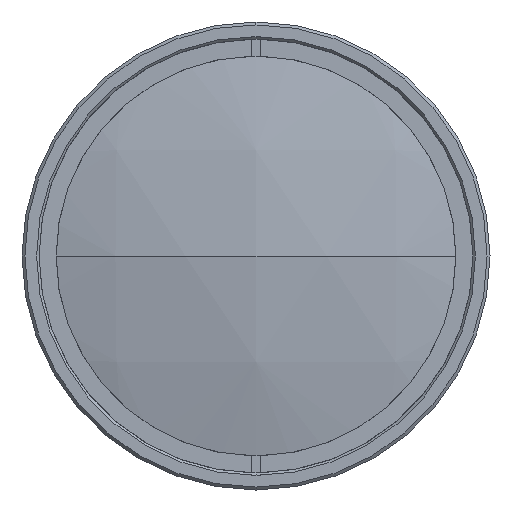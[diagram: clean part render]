
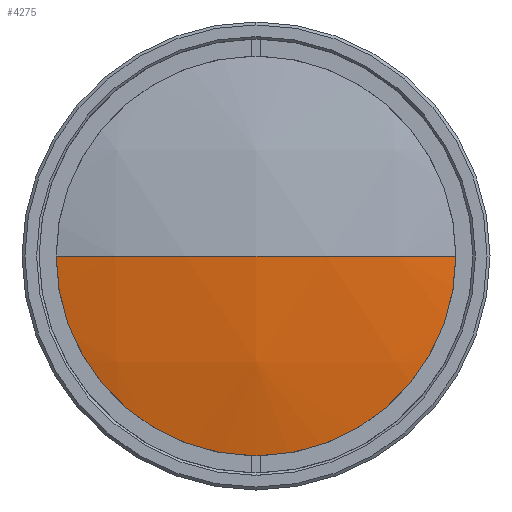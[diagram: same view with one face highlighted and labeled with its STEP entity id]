
A CAD part, left-side view. The second image highlights one B-rep face of the part: STEP entity #4275.
In plain terms, the highlighted spherical face has radius 86.773 mm.
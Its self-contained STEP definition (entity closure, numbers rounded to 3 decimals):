
#31 = VERTEX_POINT ( 'NONE', #9858 ) ;
#71 = DIRECTION ( 'NONE',  ( 0., 0., -1. ) ) ;
#143 = CARTESIAN_POINT ( 'NONE',  ( 86.773, 0., 0. ) ) ;
#562 = DIRECTION ( 'NONE',  ( 0., 0., 1. ) ) ;
#592 = VERTEX_POINT ( 'NONE', #8512 ) ;
#593 = CIRCLE ( 'NONE', #4793, 86.773 ) ;
#715 = DIRECTION ( 'NONE',  ( 0., 1., 0. ) ) ;
#973 = VERTEX_POINT ( 'NONE', #3142 ) ;
#998 = EDGE_CURVE ( 'NONE', #6679, #31, #5518, .T. ) ;
#1755 = DIRECTION ( 'NONE',  ( 0., 0., 1. ) ) ;
#1949 = EDGE_CURVE ( 'NONE', #592, #6679, #4336, .T. ) ;
#2049 = SPHERICAL_SURFACE ( 'NONE', #6093, 86.773 ) ;
#2465 = CARTESIAN_POINT ( 'NONE',  ( 2.706, 0., -21.5 ) ) ;
#3142 = CARTESIAN_POINT ( 'NONE',  ( 0., 0., 0. ) ) ;
#3576 = DIRECTION ( 'NONE',  ( -1., 0., 0. ) ) ;
#3598 = CARTESIAN_POINT ( 'NONE',  ( 2.706, 0., 0. ) ) ;
#4242 = ORIENTED_EDGE ( 'NONE', *, *, #1949, .T. ) ;
#4275 = ADVANCED_FACE ( 'NONE', ( #6284 ), #2049, .T. ) ;
#4336 = CIRCLE ( 'NONE', #7985, 21.5 ) ;
#4482 = ORIENTED_EDGE ( 'NONE', *, *, #5909, .T. ) ;
#4589 = CARTESIAN_POINT ( 'NONE',  ( 2.706, 0., 0. ) ) ;
#4793 = AXIS2_PLACEMENT_3D ( 'NONE', #6833, #1755, #7669 ) ;
#5117 = CARTESIAN_POINT ( 'NONE',  ( 86.773, 0., 0. ) ) ;
#5518 = CIRCLE ( 'NONE', #9773, 21.5 ) ;
#5851 = EDGE_LOOP ( 'NONE', ( #9264, #4482, #9035, #4242 ) ) ;
#5909 = EDGE_CURVE ( 'NONE', #31, #973, #10245, .T. ) ;
#6093 = AXIS2_PLACEMENT_3D ( 'NONE', #5117, #9167, #10580 ) ;
#6236 = DIRECTION ( 'NONE',  ( -1., 0., 0. ) ) ;
#6284 = FACE_OUTER_BOUND ( 'NONE', #5851, .T. ) ;
#6679 = VERTEX_POINT ( 'NONE', #2465 ) ;
#6833 = CARTESIAN_POINT ( 'NONE',  ( 86.773, 0., 0. ) ) ;
#7669 = DIRECTION ( 'NONE',  ( 1., 0., 0. ) ) ;
#7985 = AXIS2_PLACEMENT_3D ( 'NONE', #3598, #6236, #562 ) ;
#8512 = CARTESIAN_POINT ( 'NONE',  ( 2.706, 21.5, 0. ) ) ;
#9035 = ORIENTED_EDGE ( 'NONE', *, *, #10093, .F. ) ;
#9167 = DIRECTION ( 'NONE',  ( 0., 0., -1. ) ) ;
#9264 = ORIENTED_EDGE ( 'NONE', *, *, #998, .T. ) ;
#9330 = AXIS2_PLACEMENT_3D ( 'NONE', #143, #71, #715 ) ;
#9773 = AXIS2_PLACEMENT_3D ( 'NONE', #4589, #3576, #9830 ) ;
#9830 = DIRECTION ( 'NONE',  ( 0., 0., 1. ) ) ;
#9858 = CARTESIAN_POINT ( 'NONE',  ( 2.706, -21.5, 0. ) ) ;
#10093 = EDGE_CURVE ( 'NONE', #592, #973, #593, .T. ) ;
#10245 = CIRCLE ( 'NONE', #9330, 86.773 ) ;
#10580 = DIRECTION ( 'NONE',  ( 0., 1., 0. ) ) ;
